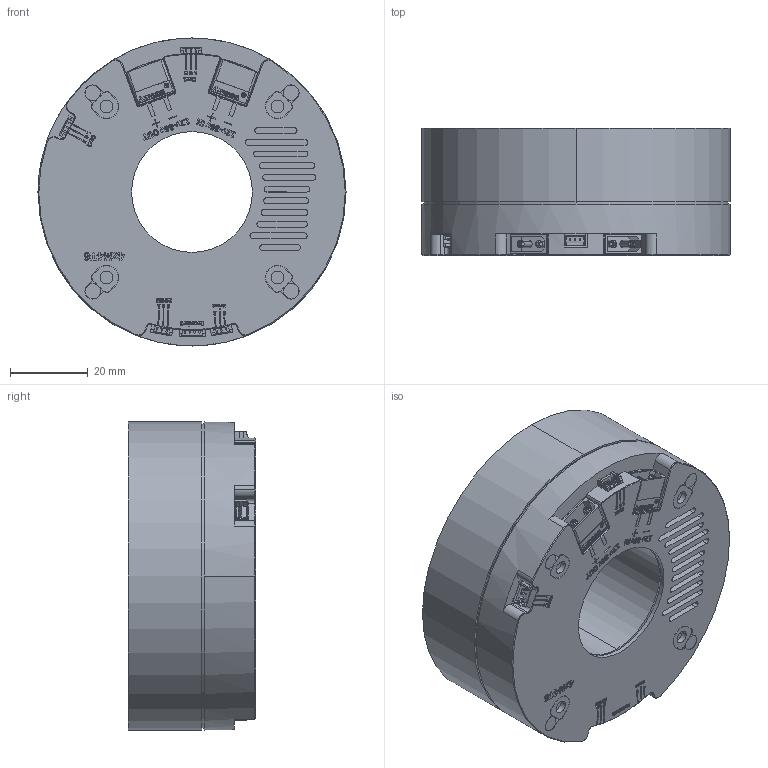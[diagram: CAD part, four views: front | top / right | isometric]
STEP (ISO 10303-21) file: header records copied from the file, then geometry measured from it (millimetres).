
FILE_DESCRIPTION (( 'STEP AP203' ), '1' );
FILE_NAME ('MG-H79-31.STEP', '2026-09-20T11:31:04', ( '' ), ( '' ), 'SwSTEP 2.0', 'SolidWorks 2021', '' );
FILE_SCHEMA (( 'CONFIG_CONTROL_DESIGN' ));
Length unit declared in the file: millimetre
Products named in the file (1): MG-H79-31
Bounding box: 79 x 32.6 x 79 mm (x, y, z)
Volume: 131547.4 mm3; surface area: 23673.7 mm2
Topology: 1 solids, 9 shells, 2364 faces, 6356 edges, 4173 vertices
Faces by surface type: plane 1525, bspline 529, cylinder 260, torus 26, cone 24
Entity records: 94624 total; most frequent: CARTESIAN_POINT 38221, ORIENTED_EDGE 12712, DIRECTION 9707, EDGE_CURVE 6356, VECTOR 4477, LINE 4477, VERTEX_POINT 4173, AXIS2_PLACEMENT_3D 2615
